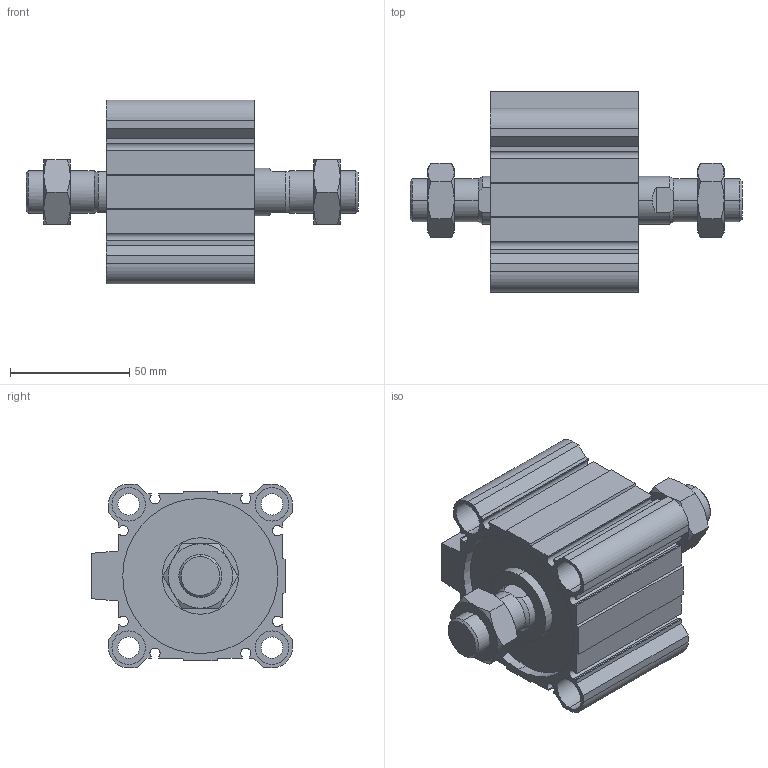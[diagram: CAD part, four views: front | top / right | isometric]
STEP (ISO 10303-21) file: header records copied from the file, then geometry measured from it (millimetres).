
FILE_DESCRIPTION (( 'STEP AP203' ), '1' );
FILE_NAME ('CCMB63-10M-P.STEP', '2020-08-10T11:48:44', ( '' ), ( '' ), 'SwSTEP 2.0', 'SolidWorks 2019', '' );
FILE_SCHEMA (( 'CONFIG_CONTROL_DESIGN' ));
Length unit declared in the file: millimetre
Products named in the file (1): CCMB63-10M-P
Bounding box: 139 x 84 x 77 mm (x, y, z)
Volume: 279320.7 mm3; surface area: 84026.6 mm2
Topology: 4 solids, 4 shells, 232 faces, 570 edges, 364 vertices
Faces by surface type: plane 110, cylinder 78, cone 44
Entity records: 7569 total; most frequent: CARTESIAN_POINT 1939, DIRECTION 1176, ORIENTED_EDGE 1140, EDGE_CURVE 570, AXIS2_PLACEMENT_3D 437, VERTEX_POINT 364, LINE 302, VECTOR 302
